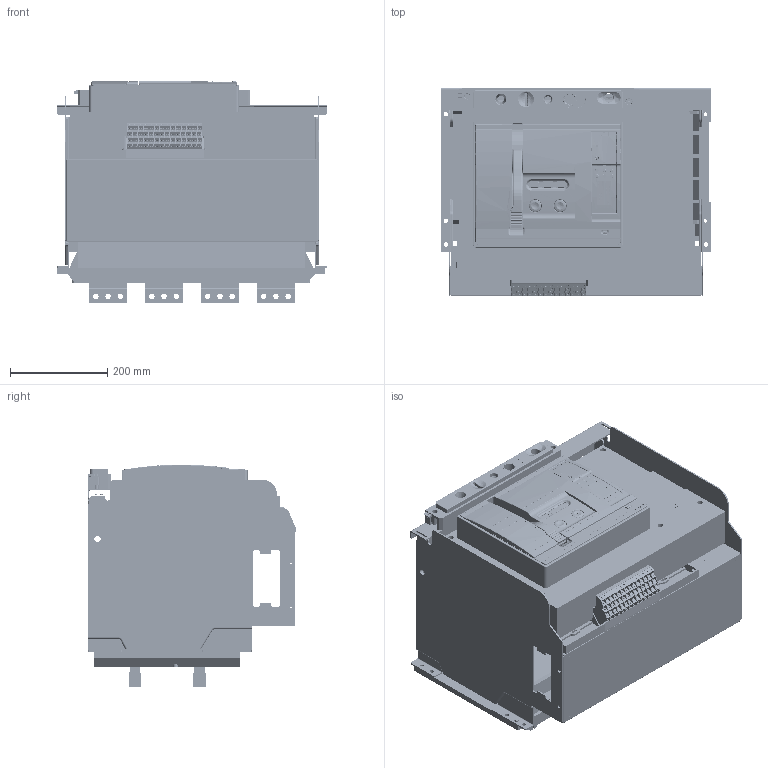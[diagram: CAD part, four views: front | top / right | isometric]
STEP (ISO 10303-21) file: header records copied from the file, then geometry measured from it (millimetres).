
FILE_DESCRIPTION(/* description */ (''),/* implementation_level */ '2;1');
FILE_NAME(/* name */ 'C:/Users/carlos.gonzalez/Documents/ADRIAN_TEMP_DRAWING/Ex9A32_4P_2500_DO_PB_Drawing.step',/* time_stamp */ '2021-10-14T12:53:36+02:00',/* author */ (''),/* organization */ (''),/* preprocessor_version */ 'ST-DEVELOPER v18.1',/* originating_system */ 'Autodesk Translation Framework v10.10.0.1391',/* authorisation */ '');
FILE_SCHEMA (('AUTOMOTIVE_DESIGN { 1 0 10303 214 3 1 1 }'));
Products named in the file (58): Ex9A32_4P_2500_DO; Auxiliary terminals; 5ZTD-558-695-4000_ASM; 5ZTD-558-712_ASM; 5ZTD-558-712_ASM_1; 5ZTD-558-712_ASM_2; 5ZTD-558-712_ASM_3; 5ZTD-558-712_ASM_4; 5ZTD-558-712_ASM_5; 5ZTD-558-712_ASM_6; 5ZTD-558-712_ASM_7; 5ZTD-558-712_ASM_8; 5ZTD-558-712_ASM_9; 5ZTD-558-712_ASM_10; 5ZTD-558-712_ASM_11; 5ZTD-558-712_ASM_12; 5ZTD-558-712_ASM_13; 8ZTD-024-837; 8ZTD-557-514; 8ZTD-557-515; 8ZTD-557-516; 8ZTD-557-517; M3_GB6170; M3X8_GB818; 8ZTD-141-185; 8ZTD-141-184; 8ZTD-860-699; 8ZTD-064-136; Smart unit; 5043A0101001; 8320A0101004; 8005A0101008; 8860A1424009; Main terminals; 8580A0412008; Cover; 5300A1526114_ASM; 8300A0101127_34; 8235A0101009_2; 8253A0101002_7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
Assembly tree (265 placements, depth 5):
  Ex9A32_4P_2500_DO
    Auxiliary terminals
      5ZTD-558-695-4000_ASM
        5ZTD-558-712_ASM
          8ZTD-024-837
          8ZTD-557-514
          8ZTD-557-515
          8ZTD-557-516
          8ZTD-557-517
          M3_GB6170  x4
          M3X8_GB818  x4
          8ZTD-141-185
          8ZTD-141-184
        5ZTD-558-712_ASM_1
          8ZTD-024-837
          8ZTD-557-514
          8ZTD-557-515
          8ZTD-557-516
          8ZTD-557-517
          M3_GB6170  x4
          M3X8_GB818  x4
          8ZTD-141-185
          8ZTD-141-184
        5ZTD-558-712_ASM_2
          8ZTD-024-837
          8ZTD-557-514
          8ZTD-557-515
          8ZTD-557-516
          8ZTD-557-517
          M3_GB6170  x4
          M3X8_GB818  x4
          8ZTD-141-185
          8ZTD-141-184
        5ZTD-558-712_ASM_3
          8ZTD-024-837
          8ZTD-557-514
          8ZTD-557-515
          8ZTD-557-516
          8ZTD-557-517
          M3_GB6170  x4
          M3X8_GB818  x4
          8ZTD-141-185
          8ZTD-141-184
        5ZTD-558-712_ASM_4
          8ZTD-024-837
          8ZTD-557-514
          8ZTD-557-515
          8ZTD-557-516
          8ZTD-557-517
          M3_GB6170  x4
          M3X8_GB818  x4
          8ZTD-141-185
          8ZTD-141-184
        5ZTD-558-712_ASM_5
          8ZTD-024-837
          8ZTD-557-514
          8ZTD-557-515
          8ZTD-557-516
          8ZTD-557-517
          M3_GB6170  x4
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Bounding box: 554 x 428.53 x 456.99 mm (x, y, z)
Volume: 17737427 mm3; surface area: 4075174.9 mm2
Topology: 244 solids, 331 shells, 19317 faces, 51373 edges, 33382 vertices
Faces by surface type: plane 14382, cylinder 2653, bspline 933, cone 837, torus 393, sphere 119
Full cylindrical faces by diameter (mm): 2 x539, 2.1 x2, 2.246 x56, 2.5 x3, 2.6 x2, 3 x88, 3.2 x4, 3.3 x1, 3.5 x45, 4 x94, 4.3 x1, 4.5 x3, 5 x20, 5.008 x1, 5.5 x1, 6 x5, 6.1 x1, 6.5 x8, 7 x8, 8 x2, 8.3 x2, 8.5 x32, 9 x12, 10 x32, 11 x27, 12 x7, 12.5 x1, 13 x5, 14 x2, 14.4 x1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
Entity records: 253462 total; most frequent: CARTESIAN_POINT 97883, ORIENTED_EDGE 32592, DIRECTION 30498, EDGE_CURVE 16349, LINE 11744, VECTOR 11744, VERTEX_POINT 10598, AXIS2_PLACEMENT_3D 9377
